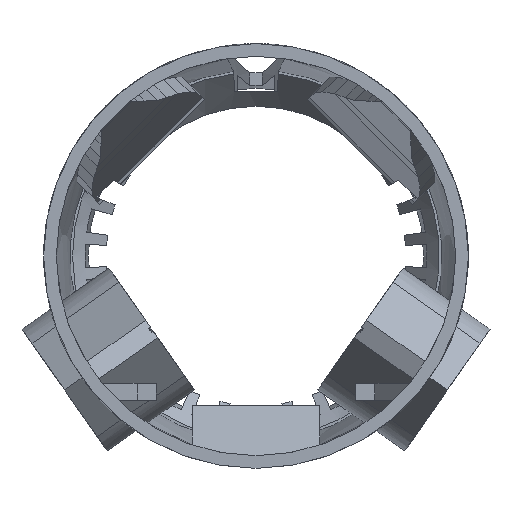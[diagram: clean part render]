
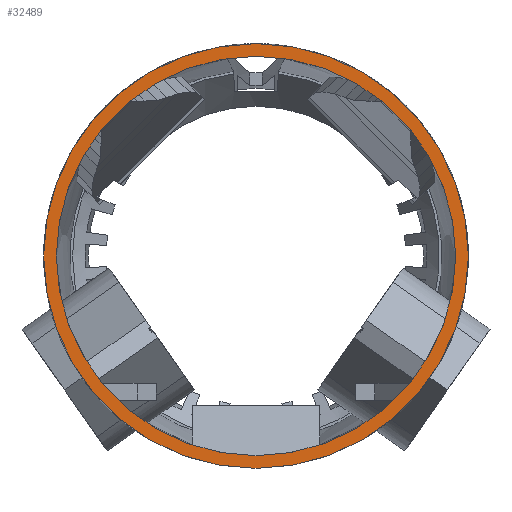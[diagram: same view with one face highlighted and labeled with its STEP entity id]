
A CAD part, left-side view. The second image highlights one B-rep face of the part: STEP entity #32489.
In plain terms, the highlighted planar face has unit normal (-1, 0, 0).
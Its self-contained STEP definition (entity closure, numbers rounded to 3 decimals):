
#21 = EDGE_CURVE('',#22,#22,#24,.T.);
#22 = VERTEX_POINT('',#23);
#23 = CARTESIAN_POINT('',(350.,20.,0.));
#24 = SURFACE_CURVE('',#25,(#30,#42),.PCURVE_S1.);
#25 = CIRCLE('',#26,20.);
#26 = AXIS2_PLACEMENT_3D('',#27,#28,#29);
#27 = CARTESIAN_POINT('',(350.,0.,0.));
#28 = DIRECTION('',(1.,0.,0.));
#29 = DIRECTION('',(-0.,1.,0.));
#30 = PCURVE('',#31,#36);
#31 = CYLINDRICAL_SURFACE('',#32,20.);
#32 = AXIS2_PLACEMENT_3D('',#33,#34,#35);
#33 = CARTESIAN_POINT('',(42.,0.,0.));
#34 = DIRECTION('',(1.,0.,0.));
#35 = DIRECTION('',(-0.,1.,0.));
#36 = DEFINITIONAL_REPRESENTATION('',(#37),#41);
#37 = LINE('',#38,#39);
#38 = CARTESIAN_POINT('',(0.,308.));
#39 = VECTOR('',#40,1.);
#40 = DIRECTION('',(1.,0.));
#41 = ( GEOMETRIC_REPRESENTATION_CONTEXT(2) 
PARAMETRIC_REPRESENTATION_CONTEXT() REPRESENTATION_CONTEXT('2D SPACE',''
  ) );
#42 = PCURVE('',#43,#48);
#43 = PLANE('',#44);
#44 = AXIS2_PLACEMENT_3D('',#45,#46,#47);
#45 = CARTESIAN_POINT('',(350.,-60.,-120.));
#46 = DIRECTION('',(1.,0.,-0.));
#47 = DIRECTION('',(0.,0.,1.));
#48 = DEFINITIONAL_REPRESENTATION('',(#49),#53);
#49 = CIRCLE('',#50,20.);
#50 = AXIS2_PLACEMENT_2D('',#51,#52);
#51 = CARTESIAN_POINT('',(120.,-60.));
#52 = DIRECTION('',(0.,-1.));
#53 = ( GEOMETRIC_REPRESENTATION_CONTEXT(2) 
PARAMETRIC_REPRESENTATION_CONTEXT() REPRESENTATION_CONTEXT('2D SPACE',''
  ) );
#3578 = CYLINDRICAL_SURFACE('',#3579,18.8);
#3579 = AXIS2_PLACEMENT_3D('',#3580,#3581,#3582);
#3580 = CARTESIAN_POINT('',(42.,0.,0.));
#3581 = DIRECTION('',(1.,0.,0.));
#3582 = DIRECTION('',(-0.,1.,0.));
#7414 = VERTEX_POINT('',#7415);
#7415 = CARTESIAN_POINT('',(350.,18.8,0.));
#7436 = EDGE_CURVE('',#7414,#7414,#7437,.T.);
#7437 = SURFACE_CURVE('',#7438,(#7443,#7450),.PCURVE_S1.);
#7438 = CIRCLE('',#7439,18.8);
#7439 = AXIS2_PLACEMENT_3D('',#7440,#7441,#7442);
#7440 = CARTESIAN_POINT('',(350.,0.,0.));
#7441 = DIRECTION('',(1.,0.,0.));
#7442 = DIRECTION('',(-0.,1.,0.));
#7443 = PCURVE('',#3578,#7444);
#7444 = DEFINITIONAL_REPRESENTATION('',(#7445),#7449);
#7445 = LINE('',#7446,#7447);
#7446 = CARTESIAN_POINT('',(0.,308.));
#7447 = VECTOR('',#7448,1.);
#7448 = DIRECTION('',(1.,0.));
#7449 = ( GEOMETRIC_REPRESENTATION_CONTEXT(2) 
PARAMETRIC_REPRESENTATION_CONTEXT() REPRESENTATION_CONTEXT('2D SPACE',''
  ) );
#7450 = PCURVE('',#43,#7451);
#7451 = DEFINITIONAL_REPRESENTATION('',(#7452),#7456);
#7452 = CIRCLE('',#7453,18.8);
#7453 = AXIS2_PLACEMENT_2D('',#7454,#7455);
#7454 = CARTESIAN_POINT('',(120.,-60.));
#7455 = DIRECTION('',(0.,-1.));
#7456 = ( GEOMETRIC_REPRESENTATION_CONTEXT(2) 
PARAMETRIC_REPRESENTATION_CONTEXT() REPRESENTATION_CONTEXT('2D SPACE',''
  ) );
#32489 = ADVANCED_FACE('',(#32490,#32493),#43,.F.);
#32490 = FACE_BOUND('',#32491,.F.);
#32491 = EDGE_LOOP('',(#32492));
#32492 = ORIENTED_EDGE('',*,*,#21,.T.);
#32493 = FACE_BOUND('',#32494,.F.);
#32494 = EDGE_LOOP('',(#32495));
#32495 = ORIENTED_EDGE('',*,*,#7436,.F.);
